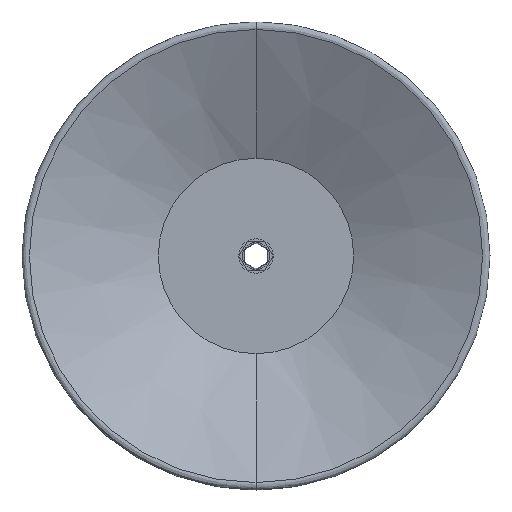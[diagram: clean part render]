
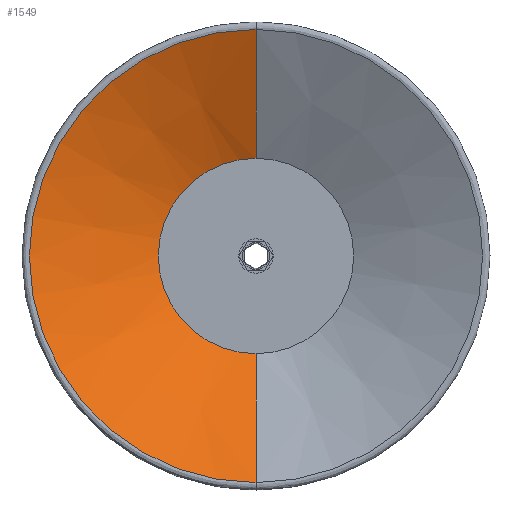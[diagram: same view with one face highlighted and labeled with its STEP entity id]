
A CAD part, front view. The second image highlights one B-rep face of the part: STEP entity #1549.
In plain terms, the highlighted conical face has half-angle 64.273 degrees and reference radius 61.492 mm.
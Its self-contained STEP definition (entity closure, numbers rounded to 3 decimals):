
#73 = AXIS2_PLACEMENT_3D ( 'NONE', #7895, #8422, #15649 ) ;
#361 = DIRECTION ( 'NONE',  ( 0., -1., 0. ) ) ;
#668 = CIRCLE ( 'NONE', #14384, 26.5 ) ;
#1482 = CARTESIAN_POINT ( 'NONE',  ( 0., -17., 0. ) ) ;
#1549 = ADVANCED_FACE ( 'NONE', ( #15199 ), #6183, .F. ) ;
#1660 = VECTOR ( 'NONE', #14264, 1000. ) ;
#2187 = VERTEX_POINT ( 'NONE', #10141 ) ;
#2273 = EDGE_CURVE ( 'NONE', #5313, #2187, #668, .T. ) ;
#2653 = CARTESIAN_POINT ( 'NONE',  ( 0., -33.861, 61.492 ) ) ;
#3225 = ORIENTED_EDGE ( 'NONE', *, *, #3287, .T. ) ;
#3287 = EDGE_CURVE ( 'NONE', #5313, #3624, #6013, .T. ) ;
#3624 = VERTEX_POINT ( 'NONE', #2653 ) ;
#3977 = DIRECTION ( 'NONE',  ( 0., -0.434, -0.901 ) ) ;
#4348 = ORIENTED_EDGE ( 'NONE', *, *, #4607, .F. ) ;
#4607 = EDGE_CURVE ( 'NONE', #13825, #3624, #4955, .T. ) ;
#4955 = CIRCLE ( 'NONE', #13822, 61.492 ) ;
#5313 = VERTEX_POINT ( 'NONE', #9255 ) ;
#5743 = DIRECTION ( 'NONE',  ( 0., 0., 1. ) ) ;
#6013 = LINE ( 'NONE', #12097, #1660 ) ;
#6183 = CONICAL_SURFACE ( 'NONE', #73, 61.492, 1.122 ) ;
#6348 = DIRECTION ( 'NONE',  ( 0., 0., -1. ) ) ;
#7632 = ORIENTED_EDGE ( 'NONE', *, *, #15348, .F. ) ;
#7895 = CARTESIAN_POINT ( 'NONE',  ( 0., -33.861, 0. ) ) ;
#8422 = DIRECTION ( 'NONE',  ( 0., -1., 0. ) ) ;
#9255 = CARTESIAN_POINT ( 'NONE',  ( 0., -17., 26.5 ) ) ;
#10020 = CARTESIAN_POINT ( 'NONE',  ( 0., -33.861, -61.492 ) ) ;
#10141 = CARTESIAN_POINT ( 'NONE',  ( 0., -17., -26.5 ) ) ;
#11253 = EDGE_LOOP ( 'NONE', ( #14824, #3225, #4348, #7632 ) ) ;
#11271 = LINE ( 'NONE', #10020, #13351 ) ;
#11845 = CARTESIAN_POINT ( 'NONE',  ( 0., -33.861, -61.492 ) ) ;
#12097 = CARTESIAN_POINT ( 'NONE',  ( 0., -33.861, 61.492 ) ) ;
#13351 = VECTOR ( 'NONE', #3977, 1000. ) ;
#13822 = AXIS2_PLACEMENT_3D ( 'NONE', #15189, #15267, #5743 ) ;
#13825 = VERTEX_POINT ( 'NONE', #11845 ) ;
#14264 = DIRECTION ( 'NONE',  ( 0., -0.434, 0.901 ) ) ;
#14384 = AXIS2_PLACEMENT_3D ( 'NONE', #1482, #361, #6348 ) ;
#14824 = ORIENTED_EDGE ( 'NONE', *, *, #2273, .F. ) ;
#15189 = CARTESIAN_POINT ( 'NONE',  ( 0., -33.861, 0. ) ) ;
#15199 = FACE_OUTER_BOUND ( 'NONE', #11253, .T. ) ;
#15267 = DIRECTION ( 'NONE',  ( 0., 1., 0. ) ) ;
#15348 = EDGE_CURVE ( 'NONE', #2187, #13825, #11271, .T. ) ;
#15649 = DIRECTION ( 'NONE',  ( 0., 0., -1. ) ) ;
